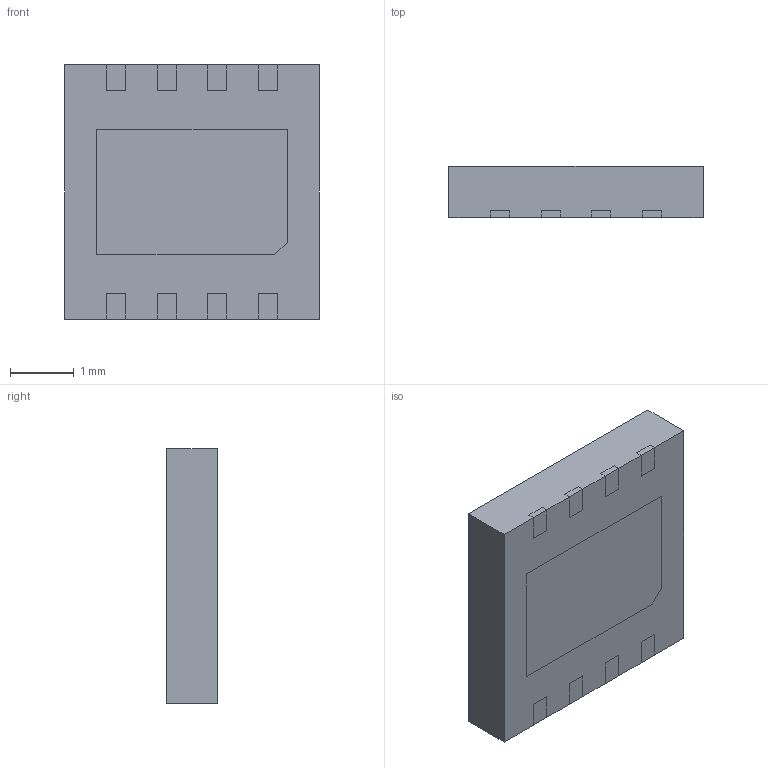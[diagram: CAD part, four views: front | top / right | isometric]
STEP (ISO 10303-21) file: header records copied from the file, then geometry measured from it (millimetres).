
FILE_DESCRIPTION (( 'STEP AP214' ), '1' );
FILE_NAME ('NGU8.STEP', '2024-01-22T08:23:03', ( '' ), ( '' ), 'SwSTEP 2.0', 'SolidWorks 2021', '' );
FILE_SCHEMA (( 'AUTOMOTIVE_DESIGN' ));
Length unit declared in the file: millimetre
Products named in the file (1): NGU8
Bounding box: 4 x 0.8 x 4 mm (x, y, z)
Volume: 12.8 mm3; surface area: 62.8 mm2
Topology: 11 solids, 11 shells, 106 faces, 246 edges, 164 vertices
Faces by surface type: plane 102, cylinder 4
Entity records: 3082 total; most frequent: CARTESIAN_POINT 517, ORIENTED_EDGE 492, DIRECTION 468, EDGE_CURVE 246, LINE 238, VECTOR 238, VERTEX_POINT 164, AXIS2_PLACEMENT_3D 115
